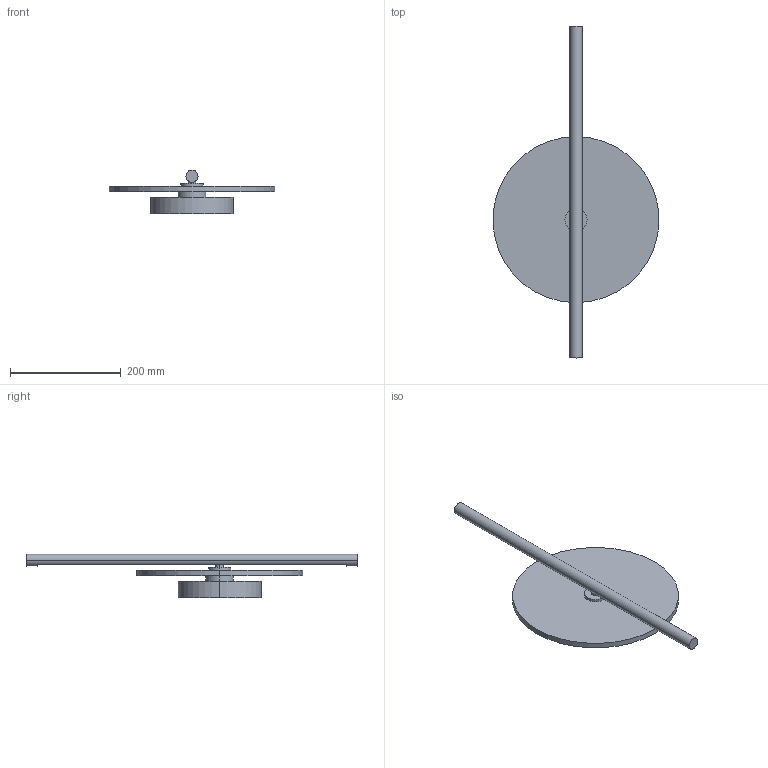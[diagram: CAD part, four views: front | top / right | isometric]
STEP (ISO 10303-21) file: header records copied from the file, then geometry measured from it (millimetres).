
FILE_DESCRIPTION (( 'STEP AP214' ), '1' );
FILE_NAME ('POINT_A1328.STEP', '2024-09-19T09:42:10', ( '' ), ( '' ), 'SwSTEP 2.0', 'SolidWorks 2018', '' );
FILE_SCHEMA (( 'AUTOMOTIVE_DESIGN' ));
Length unit declared in the file: millimetre
Products named in the file (1): POINT_A1328
Bounding box: 300 x 600 x 79 mm (x, y, z)
Volume: 1474099.7 mm3; surface area: 252360.6 mm2
Topology: 7 solids, 7 shells, 39 faces, 66 edges, 44 vertices
Faces by surface type: cylinder 20, plane 19
Entity records: 1463 total; most frequent: DIRECTION 188, CARTESIAN_POINT 150, ORIENTED_EDGE 132, AXIS2_PLACEMENT_3D 82, EDGE_CURVE 66, UNCERTAINTY_MEASURE_WITH_UNIT 48, PRESENTATION_LAYER_ASSIGNMENT 47, SURFACE_STYLE_USAGE 47
